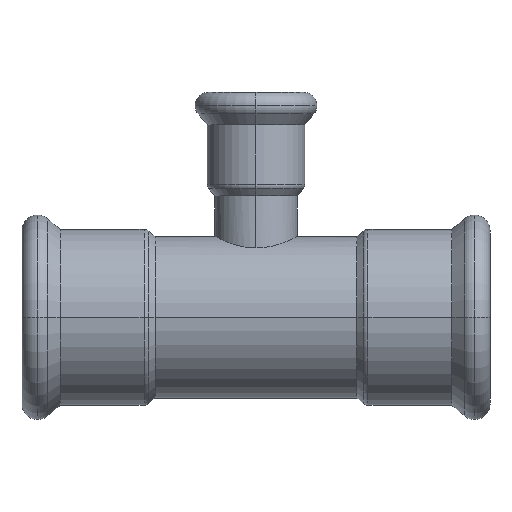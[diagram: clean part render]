
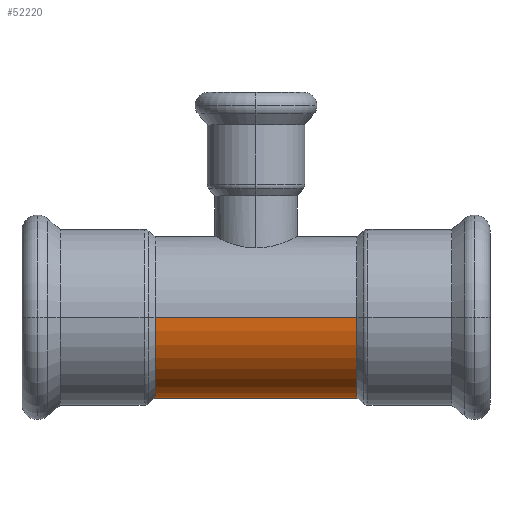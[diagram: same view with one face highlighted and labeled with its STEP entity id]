
A CAD part, left-side view. The second image highlights one B-rep face of the part: STEP entity #52220.
In plain terms, the highlighted cylindrical face has radius 17.594 mm (diameter 35.189 mm), a partial arc.
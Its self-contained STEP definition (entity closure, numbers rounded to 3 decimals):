
#11540=CARTESIAN_POINT('',(-202.976,16.121,-22.));
#11550=DIRECTION('',(0.,0.,-1.));
#11560=DIRECTION('',(1.,0.,0.));
#11570=AXIS2_PLACEMENT_3D('',#11540,#11550,#11560);
#11580=CYLINDRICAL_SURFACE('',#11570,17.594);
#19410=CARTESIAN_POINT('',(-220.571,16.121,-22.));
#19420=DIRECTION('',(0.,0.,-1.));
#19430=VECTOR('',#19420,1.);
#19440=LINE('',#19410,#19430);
#19450=CARTESIAN_POINT('',(-220.571,16.121,22.));
#19460=VERTEX_POINT('',#19450);
#19470=CARTESIAN_POINT('',(-220.571,16.121,-22.));
#19480=VERTEX_POINT('',#19470);
#19490=EDGE_CURVE('',#19460,#19480,#19440,.T.);
#19510=CARTESIAN_POINT('',(-202.976,16.121,-22.));
#19520=DIRECTION('',(0.,0.,-1.));
#19530=DIRECTION('',(1.,0.,0.));
#19540=AXIS2_PLACEMENT_3D('',#19510,#19520,#19530);
#19550=CIRCLE('',#19540,17.594);
#19560=CARTESIAN_POINT('',(-185.382,16.121,-22.));
#19570=VERTEX_POINT('',#19560);
#19600=CARTESIAN_POINT('',(-185.382,16.121,-22.));
#19610=DIRECTION('',(0.,0.,-1.));
#19620=VECTOR('',#19610,1.);
#19630=LINE('',#19600,#19620);
#19640=CARTESIAN_POINT('',(-185.382,16.121,22.));
#19650=VERTEX_POINT('',#19640);
#19660=EDGE_CURVE('',#19650,#19570,#19630,.T.);
#19680=CARTESIAN_POINT('',(-202.976,16.121,22.));
#19690=DIRECTION('',(0.,0.,-1.));
#19700=DIRECTION('',(1.,0.,0.));
#19710=AXIS2_PLACEMENT_3D('',#19680,#19690,#19700);
#19720=CIRCLE('',#19710,17.594);
#52140=EDGE_CURVE('',#19570,#19480,#19550,.T.);
#52150=ORIENTED_EDGE('',*,*,#52140,.F.);
#52160=ORIENTED_EDGE('',*,*,#19490,.T.);
#52170=EDGE_CURVE('',#19650,#19460,#19720,.T.);
#52180=ORIENTED_EDGE('',*,*,#52170,.T.);
#52190=ORIENTED_EDGE('',*,*,#19660,.F.);
#52200=EDGE_LOOP('',(#52190,#52180,#52160,#52150));
#52210=FACE_OUTER_BOUND('',#52200,.T.);
#52220=ADVANCED_FACE('',(#52210),#11580,.T.);
